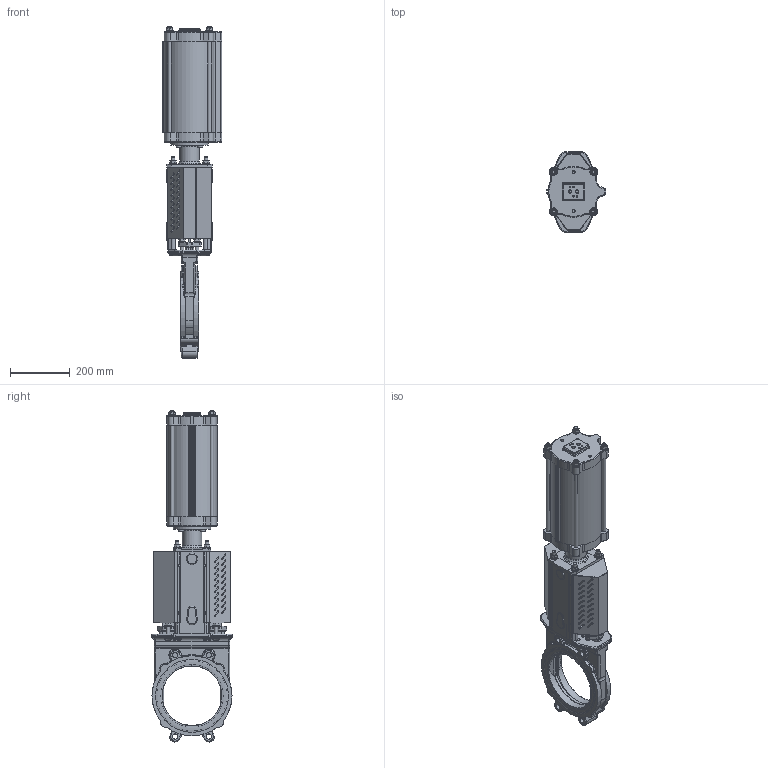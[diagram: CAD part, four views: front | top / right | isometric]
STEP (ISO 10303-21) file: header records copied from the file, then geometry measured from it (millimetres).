
FILE_DESCRIPTION(/* description */ (''),/* implementation_level */ '2;1');
FILE_NAME(/* name */ 'F:\Emir\3D-block special\WB\WB11-DN200-PN10-FRSC160-215.stp',/* time_stamp */ '2018-02-12T15:16:21+01:00',/* author */ ('emimus'),/* organization */ (''),/* preprocessor_version */ 'ST-DEVELOPER v17',/* originating_system */ 'Autodesk Inventor 2018',/* authorisation */ '');
FILE_SCHEMA (('CONFIG_CONTROL_DESIGN'));
Products named in the file (1): WB11-DN200-PN10-FRSC160-215
Bounding box: 198.5 x 270 x 1110.33 mm (x, y, z)
Surface area: 1866781.3 mm2
Topology: 1 solids, 2 shells, 2939 faces, 7461 edges, 4517 vertices
Faces by surface type: plane 997, cylinder 961, bspline 329, torus 303, cone 229, sphere 120
Full cylindrical faces by diameter (mm): 3 x5, 4 x6, 4.134 x4, 4.2 x16, 4.5 x4, 4.917 x4, 8 x8, 8.376 x2, 9.5 x4, 10 x11, 11.445 x2, 12 x32, 13 x25, 15 x3, 16 x6, 17.294 x1, 17.5 x6, 17.7 x1, 18 x4, 20 x1, 24 x14, 28 x2, 30 x1, 30.1 x2, 34 x1, 35 x1, 36 x1, 36.4 x1, 38 x3, 55 x1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
Entity records: 113097 total; most frequent: CARTESIAN_POINT 42506, DIRECTION 15026, ORIENTED_EDGE 14744, EDGE_CURVE 7372, AXIS2_PLACEMENT_3D 6073, VERTEX_POINT 4517, EDGE_LOOP 3230, CIRCLE 3169
